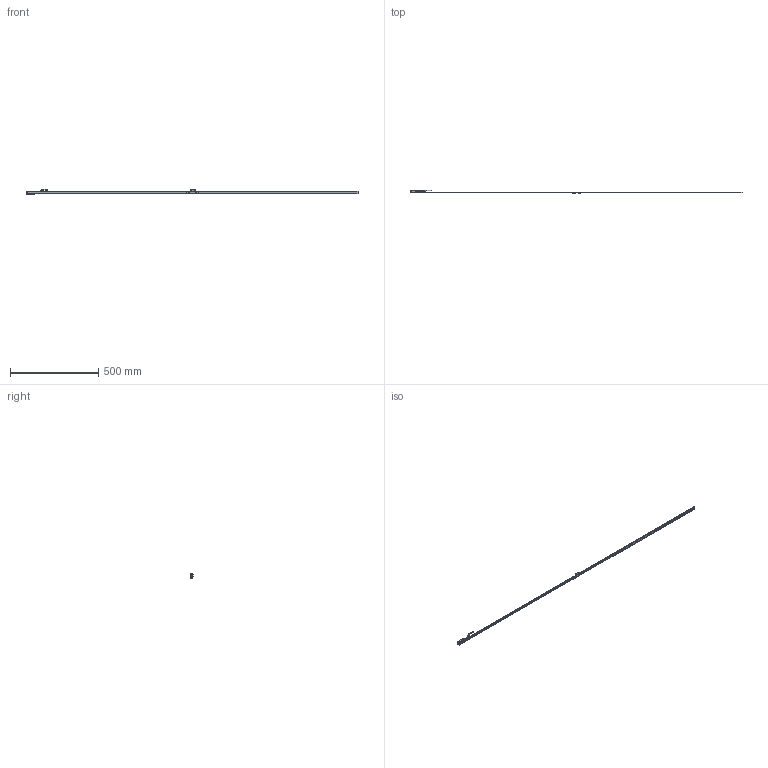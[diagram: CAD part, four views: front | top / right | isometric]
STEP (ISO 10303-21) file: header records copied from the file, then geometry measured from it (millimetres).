
FILE_DESCRIPTION(('Creo Elements/Direct Modeling STEP Export'),'2;1');
FILE_NAME('EXG_EXGA-1840.stp','2017-01-13T14:29:08',(''),(''),'Creo Elements/Direct Modeling STEP processor for AP214 (Solid Model)','Creo Elements/Direct Modeling 18.1H 24-Oct-2015 (C) Parametric Technology GmbH','');
FILE_SCHEMA(('AUTOMOTIVE_DESIGN { 1 0 10303 214 1 1 1 1 }'));
Length unit declared in the file: millimetre
Products named in the file (4): CABEZA_REGLA_EXPOSED; Regla_64
Assembly tree (2 placements, depth 2):
  CABEZA_REGLA_EXPOSED
    CABEZA_REGLA_EXPOSED
  Regla_64
    Regla_64
Bounding box: 1878 x 19.51 x 29.33 mm (x, y, z)
Volume: 75409.5 mm3; surface area: 122882.8 mm2
Topology: 2 solids, 4 shells, 508 faces, 1339 edges, 854 vertices
Faces by surface type: plane 255, cylinder 149, cone 88, torus 16
Entity records: 16964 total; most frequent: CARTESIAN_POINT 2901, ORIENTED_EDGE 2654, DIRECTION 2465, EDGE_CURVE 1327, VERTEX_POINT 854, AXIS2_PLACEMENT_3D 847, VECTOR 771, LINE 771
